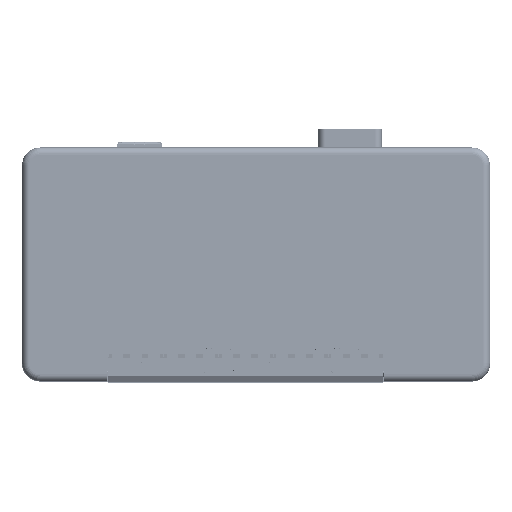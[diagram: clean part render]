
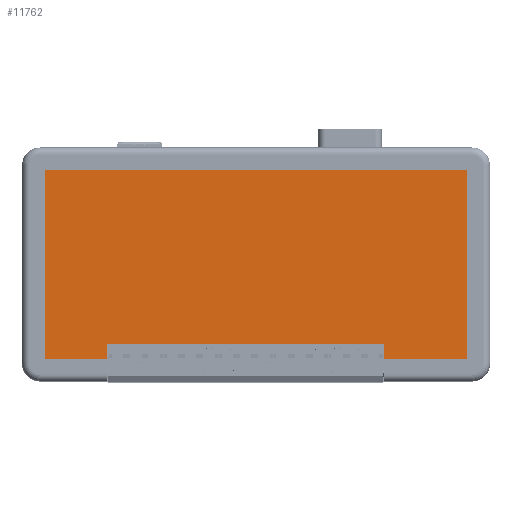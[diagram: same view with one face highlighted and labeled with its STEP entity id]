
A CAD part, top view. The second image highlights one B-rep face of the part: STEP entity #11762.
In plain terms, the highlighted planar face has unit normal (0, 0, 1) as drawn and (0, 0, -1) by its records, which use the part's own axes.
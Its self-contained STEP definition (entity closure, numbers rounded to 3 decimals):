
#221 = DIRECTION ( 'NONE',  ( 1., 0., 0. ) ) ;
#494 = EDGE_CURVE ( 'NONE', #15033, #130235, #112570, .T. ) ;
#2419 = VECTOR ( 'NONE', #68475, 1000. ) ;
#7185 = DIRECTION ( 'NONE',  ( 0., -1., 0. ) ) ;
#11332 = LINE ( 'NONE', #62112, #37066 ) ;
#11762 = ADVANCED_FACE ( 'NONE', ( #21848 ), #85239, .F. ) ;
#14270 = VECTOR ( 'NONE', #111284, 1000. ) ;
#15033 = VERTEX_POINT ( 'NONE', #90113 ) ;
#15048 = EDGE_CURVE ( 'NONE', #138872, #75290, #74801, .T. ) ;
#15313 = VECTOR ( 'NONE', #63525, 1000. ) ;
#16326 = CARTESIAN_POINT ( 'NONE',  ( -58.625, 26.125, 1. ) ) ;
#20116 = EDGE_CURVE ( 'NONE', #90945, #138872, #95236, .T. ) ;
#21848 = FACE_OUTER_BOUND ( 'NONE', #31215, .T. ) ;
#24121 = DIRECTION ( 'NONE',  ( 0., 1., 0. ) ) ;
#24724 = VECTOR ( 'NONE', #83452, 1000. ) ;
#25292 = LINE ( 'NONE', #88324, #80479 ) ;
#26893 = ORIENTED_EDGE ( 'NONE', *, *, #20116, .T. ) ;
#31215 = EDGE_LOOP ( 'NONE', ( #140656, #26893, #140729, #118261, #56704, #61054, #56777, #108404 ) ) ;
#31640 = LINE ( 'NONE', #57327, #2419 ) ;
#32507 = EDGE_CURVE ( 'NONE', #119400, #141963, #31640, .T. ) ;
#34996 = CARTESIAN_POINT ( 'NONE',  ( 35.5, 22., 1. ) ) ;
#37066 = VECTOR ( 'NONE', #7185, 1000. ) ;
#41265 = DIRECTION ( 'NONE',  ( 0., 0., 1. ) ) ;
#45406 = VECTOR ( 'NONE', #57359, 1000. ) ;
#46262 = CARTESIAN_POINT ( 'NONE',  ( 0., 22., 1. ) ) ;
#49934 = CARTESIAN_POINT ( 'NONE',  ( -41.5, 22., 1. ) ) ;
#51636 = CARTESIAN_POINT ( 'NONE',  ( 58.625, 26.125, 1. ) ) ;
#51772 = VECTOR ( 'NONE', #24121, 1000. ) ;
#51924 = CARTESIAN_POINT ( 'NONE',  ( -58.625, -26.125, 1. ) ) ;
#52595 = EDGE_CURVE ( 'NONE', #75290, #15033, #103176, .T. ) ;
#56704 = ORIENTED_EDGE ( 'NONE', *, *, #494, .T. ) ;
#56777 = ORIENTED_EDGE ( 'NONE', *, *, #32507, .T. ) ;
#57327 = CARTESIAN_POINT ( 'NONE',  ( -58.625, -26.125, 1. ) ) ;
#57359 = DIRECTION ( 'NONE',  ( 1., 0., 0. ) ) ;
#61054 = ORIENTED_EDGE ( 'NONE', *, *, #127740, .T. ) ;
#62112 = CARTESIAN_POINT ( 'NONE',  ( 58.625, 26.125, 1. ) ) ;
#62783 = CARTESIAN_POINT ( 'NONE',  ( 58.625, -26.125, 1. ) ) ;
#63525 = DIRECTION ( 'NONE',  ( 0., 1., 0. ) ) ;
#65913 = VERTEX_POINT ( 'NONE', #107748 ) ;
#67302 = LINE ( 'NONE', #90075, #51772 ) ;
#68475 = DIRECTION ( 'NONE',  ( -1., 0., 0. ) ) ;
#70374 = EDGE_CURVE ( 'NONE', #141963, #65913, #67302, .T. ) ;
#71333 = AXIS2_PLACEMENT_3D ( 'NONE', #139605, #41265, #118361 ) ;
#74801 = LINE ( 'NONE', #46262, #45406 ) ;
#75290 = VERTEX_POINT ( 'NONE', #34996 ) ;
#80479 = VECTOR ( 'NONE', #221, 1000. ) ;
#83452 = DIRECTION ( 'NONE',  ( 1., 0., 0. ) ) ;
#84830 = EDGE_CURVE ( 'NONE', #65913, #90945, #25292, .T. ) ;
#85239 = PLANE ( 'NONE',  #71333 ) ;
#88324 = CARTESIAN_POINT ( 'NONE',  ( -58.625, 26.125, 1. ) ) ;
#90075 = CARTESIAN_POINT ( 'NONE',  ( -58.625, 26.125, 1. ) ) ;
#90113 = CARTESIAN_POINT ( 'NONE',  ( 35.5, 26.125, 1. ) ) ;
#90945 = VERTEX_POINT ( 'NONE', #114848 ) ;
#95236 = LINE ( 'NONE', #100229, #14270 ) ;
#100229 = CARTESIAN_POINT ( 'NONE',  ( -41.5, 0., 1. ) ) ;
#103176 = LINE ( 'NONE', #118331, #15313 ) ;
#107748 = CARTESIAN_POINT ( 'NONE',  ( -58.625, 26.125, 1. ) ) ;
#108404 = ORIENTED_EDGE ( 'NONE', *, *, #70374, .T. ) ;
#111284 = DIRECTION ( 'NONE',  ( 0., -1., 0. ) ) ;
#112570 = LINE ( 'NONE', #16326, #24724 ) ;
#114848 = CARTESIAN_POINT ( 'NONE',  ( -41.5, 26.125, 1. ) ) ;
#118261 = ORIENTED_EDGE ( 'NONE', *, *, #52595, .T. ) ;
#118331 = CARTESIAN_POINT ( 'NONE',  ( 35.5, 0., 1. ) ) ;
#118361 = DIRECTION ( 'NONE',  ( 1., 0., 0. ) ) ;
#119400 = VERTEX_POINT ( 'NONE', #62783 ) ;
#127740 = EDGE_CURVE ( 'NONE', #130235, #119400, #11332, .T. ) ;
#130235 = VERTEX_POINT ( 'NONE', #51636 ) ;
#138872 = VERTEX_POINT ( 'NONE', #49934 ) ;
#139605 = CARTESIAN_POINT ( 'NONE',  ( 0., 0., 1. ) ) ;
#140656 = ORIENTED_EDGE ( 'NONE', *, *, #84830, .T. ) ;
#140729 = ORIENTED_EDGE ( 'NONE', *, *, #15048, .T. ) ;
#141963 = VERTEX_POINT ( 'NONE', #51924 ) ;
